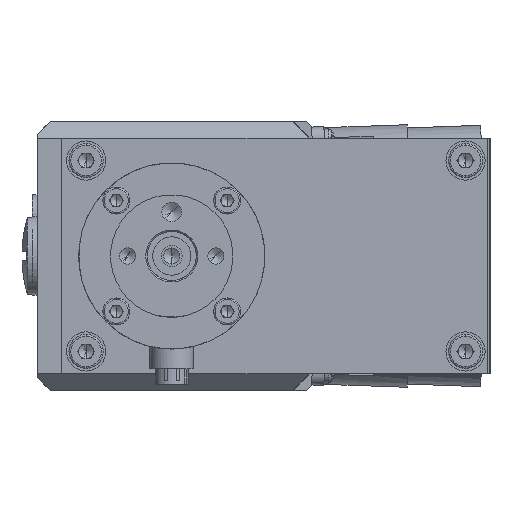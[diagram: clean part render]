
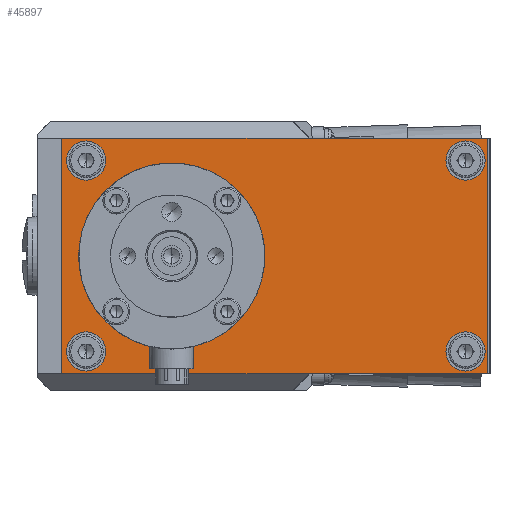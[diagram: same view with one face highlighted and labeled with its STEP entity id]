
A CAD part, left-side view. The second image highlights one B-rep face of the part: STEP entity #45897.
In plain terms, the highlighted planar face has unit normal (-1, 0, 0).
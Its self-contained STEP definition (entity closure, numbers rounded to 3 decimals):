
#493 = VECTOR ( 'NONE', #18934, 1000. ) ;
#1253 = EDGE_CURVE ( 'NONE', #39465, #55314, #44950, .T. ) ;
#1283 = FACE_BOUND ( 'NONE', #30103, .T. ) ;
#1407 = CARTESIAN_POINT ( 'NONE',  ( -106.001, -23.121, 45.182 ) ) ;
#1757 = ORIENTED_EDGE ( 'NONE', *, *, #45793, .T. ) ;
#2136 = ORIENTED_EDGE ( 'NONE', *, *, #33513, .T. ) ;
#2259 = EDGE_CURVE ( 'NONE', #18424, #23986, #35405, .T. ) ;
#2288 = VECTOR ( 'NONE', #11528, 1000. ) ;
#2969 = EDGE_CURVE ( 'NONE', #64629, #49535, #27499, .T. ) ;
#3425 = VERTEX_POINT ( 'NONE', #38431 ) ;
#3623 = CARTESIAN_POINT ( 'NONE',  ( -106.001, 36.879, 6.182 ) ) ;
#3814 = EDGE_CURVE ( 'NONE', #55314, #39465, #29535, .T. ) ;
#3964 = EDGE_LOOP ( 'NONE', ( #21582, #59154 ) ) ;
#4495 = VERTEX_POINT ( 'NONE', #55988 ) ;
#4737 = EDGE_LOOP ( 'NONE', ( #29572, #19169 ) ) ;
#5044 = DIRECTION ( 'NONE',  ( 0., 0., 1. ) ) ;
#5233 = FACE_BOUND ( 'NONE', #9624, .T. ) ;
#5773 = AXIS2_PLACEMENT_3D ( 'NONE', #47185, #22034, #63292 ) ;
#7253 = CARTESIAN_POINT ( 'NONE',  ( -106.001, -23.121, 37.182 ) ) ;
#8612 = EDGE_LOOP ( 'NONE', ( #2136, #1757, #29216, #39668 ) ) ;
#8789 = EDGE_CURVE ( 'NONE', #62896, #44707, #21869, .T. ) ;
#9624 = EDGE_LOOP ( 'NONE', ( #14439, #29323 ) ) ;
#9677 = CARTESIAN_POINT ( 'NONE',  ( -106.001, -27.621, -2.318 ) ) ;
#9692 = EDGE_LOOP ( 'NONE', ( #54868, #40660 ) ) ;
#10726 = DIRECTION ( 'NONE',  ( 0., 0., -1. ) ) ;
#10733 = FACE_OUTER_BOUND ( 'NONE', #8612, .T. ) ;
#10803 = CARTESIAN_POINT ( 'NONE',  ( -106.001, -23.121, 41.182 ) ) ;
#10888 = CARTESIAN_POINT ( 'NONE',  ( -106.001, 54.379, 2.182 ) ) ;
#11528 = DIRECTION ( 'NONE',  ( 0., 0., 1. ) ) ;
#11698 = AXIS2_PLACEMENT_3D ( 'NONE', #15801, #51156, #61562 ) ;
#11763 = DIRECTION ( 'NONE',  ( 0., 0., 1. ) ) ;
#14313 = DIRECTION ( 'NONE',  ( -1., 0., 0. ) ) ;
#14439 = ORIENTED_EDGE ( 'NONE', *, *, #18035, .F. ) ;
#14987 = CARTESIAN_POINT ( 'NONE',  ( -106.001, 54.379, -1.818 ) ) ;
#15801 = CARTESIAN_POINT ( 'NONE',  ( -106.001, -23.121, 2.182 ) ) ;
#17177 = CARTESIAN_POINT ( 'NONE',  ( -106.001, -27.621, -2.318 ) ) ;
#17781 = LINE ( 'NONE', #54031, #493 ) ;
#18035 = EDGE_CURVE ( 'NONE', #44707, #62896, #38807, .T. ) ;
#18226 = AXIS2_PLACEMENT_3D ( 'NONE', #10803, #36349, #31022 ) ;
#18424 = VERTEX_POINT ( 'NONE', #27977 ) ;
#18588 = FACE_BOUND ( 'NONE', #9692, .T. ) ;
#18743 = CARTESIAN_POINT ( 'NONE',  ( -106.001, -23.121, -1.818 ) ) ;
#18934 = DIRECTION ( 'NONE',  ( 0., 1., 0. ) ) ;
#18952 = LINE ( 'NONE', #36105, #35540 ) ;
#19169 = ORIENTED_EDGE ( 'NONE', *, *, #2969, .F. ) ;
#21582 = ORIENTED_EDGE ( 'NONE', *, *, #2259, .F. ) ;
#21869 = CIRCLE ( 'NONE', #46057, 4. ) ;
#22034 = DIRECTION ( 'NONE',  ( -1., 0., 0. ) ) ;
#22388 = EDGE_CURVE ( 'NONE', #49535, #64629, #39155, .T. ) ;
#23514 = LINE ( 'NONE', #9677, #59106 ) ;
#23986 = VERTEX_POINT ( 'NONE', #14987 ) ;
#24507 = VERTEX_POINT ( 'NONE', #52565 ) ;
#24578 = EDGE_CURVE ( 'NONE', #4495, #61840, #48435, .T. ) ;
#25323 = VERTEX_POINT ( 'NONE', #17177 ) ;
#27499 = CIRCLE ( 'NONE', #56085, 4. ) ;
#27913 = AXIS2_PLACEMENT_3D ( 'NONE', #47262, #47468, #11763 ) ;
#27977 = CARTESIAN_POINT ( 'NONE',  ( -106.001, 54.379, 6.182 ) ) ;
#28228 = LINE ( 'NONE', #52320, #2288 ) ;
#29216 = ORIENTED_EDGE ( 'NONE', *, *, #62642, .T. ) ;
#29304 = DIRECTION ( 'NONE',  ( 0., 0., 1. ) ) ;
#29323 = ORIENTED_EDGE ( 'NONE', *, *, #8789, .F. ) ;
#29498 = ORIENTED_EDGE ( 'NONE', *, *, #36718, .F. ) ;
#29535 = CIRCLE ( 'NONE', #60015, 4. ) ;
#29572 = ORIENTED_EDGE ( 'NONE', *, *, #22388, .F. ) ;
#30103 = EDGE_LOOP ( 'NONE', ( #54390, #29498 ) ) ;
#30112 = CARTESIAN_POINT ( 'NONE',  ( -106.001, -23.121, 2.182 ) ) ;
#31022 = DIRECTION ( 'NONE',  ( 0., 0., 1. ) ) ;
#31141 = VERTEX_POINT ( 'NONE', #59854 ) ;
#31340 = DIRECTION ( 'NONE',  ( 0., 0., 1. ) ) ;
#31477 = EDGE_CURVE ( 'NONE', #24507, #25323, #23514, .T. ) ;
#33513 = EDGE_CURVE ( 'NONE', #25323, #3425, #28228, .T. ) ;
#35405 = CIRCLE ( 'NONE', #5773, 4. ) ;
#35540 = VECTOR ( 'NONE', #50901, 1000. ) ;
#36056 = DIRECTION ( 'NONE',  ( 1., 0., 0. ) ) ;
#36105 = CARTESIAN_POINT ( 'NONE',  ( -106.001, 59.379, -2.318 ) ) ;
#36349 = DIRECTION ( 'NONE',  ( -1., 0., 0. ) ) ;
#36718 = EDGE_CURVE ( 'NONE', #61840, #4495, #37292, .T. ) ;
#37292 = CIRCLE ( 'NONE', #49686, 15.5 ) ;
#38036 = CARTESIAN_POINT ( 'NONE',  ( -106.001, -23.121, 6.182 ) ) ;
#38355 = CIRCLE ( 'NONE', #56051, 4. ) ;
#38431 = CARTESIAN_POINT ( 'NONE',  ( -106.001, -27.621, 45.682 ) ) ;
#38807 = CIRCLE ( 'NONE', #18226, 4. ) ;
#39155 = CIRCLE ( 'NONE', #11698, 4. ) ;
#39420 = DIRECTION ( 'NONE',  ( 0., -1., 0. ) ) ;
#39465 = VERTEX_POINT ( 'NONE', #64002 ) ;
#39605 = AXIS2_PLACEMENT_3D ( 'NONE', #40892, #36056, #10726 ) ;
#39668 = ORIENTED_EDGE ( 'NONE', *, *, #31477, .T. ) ;
#40660 = ORIENTED_EDGE ( 'NONE', *, *, #1253, .F. ) ;
#40892 = CARTESIAN_POINT ( 'NONE',  ( -106.001, -27.621, -2.318 ) ) ;
#41108 = PLANE ( 'NONE',  #39605 ) ;
#42295 = FACE_BOUND ( 'NONE', #4737, .T. ) ;
#43438 = CARTESIAN_POINT ( 'NONE',  ( -106.001, 54.379, 41.182 ) ) ;
#43620 = CARTESIAN_POINT ( 'NONE',  ( -106.001, 36.879, 21.682 ) ) ;
#44707 = VERTEX_POINT ( 'NONE', #1407 ) ;
#44950 = CIRCLE ( 'NONE', #64894, 4. ) ;
#45485 = EDGE_CURVE ( 'NONE', #23986, #18424, #38355, .T. ) ;
#45793 = EDGE_CURVE ( 'NONE', #3425, #31141, #17781, .T. ) ;
#45897 = ADVANCED_FACE ( 'NONE', ( #56517, #42295, #18588, #5233, #1283, #10733 ), #41108, .F. ) ;
#46057 = AXIS2_PLACEMENT_3D ( 'NONE', #54916, #14313, #29304 ) ;
#47185 = CARTESIAN_POINT ( 'NONE',  ( -106.001, 54.379, 2.182 ) ) ;
#47262 = CARTESIAN_POINT ( 'NONE',  ( -106.001, 36.879, 21.682 ) ) ;
#47468 = DIRECTION ( 'NONE',  ( -1., 0., 0. ) ) ;
#48435 = CIRCLE ( 'NONE', #27913, 15.5 ) ;
#49127 = DIRECTION ( 'NONE',  ( 0., 0., 1. ) ) ;
#49535 = VERTEX_POINT ( 'NONE', #38036 ) ;
#49686 = AXIS2_PLACEMENT_3D ( 'NONE', #43620, #53765, #49127 ) ;
#50297 = CARTESIAN_POINT ( 'NONE',  ( -106.001, 54.379, 41.182 ) ) ;
#50901 = DIRECTION ( 'NONE',  ( 0., 0., -1. ) ) ;
#51156 = DIRECTION ( 'NONE',  ( -1., 0., 0. ) ) ;
#52320 = CARTESIAN_POINT ( 'NONE',  ( -106.001, -27.621, 45.682 ) ) ;
#52565 = CARTESIAN_POINT ( 'NONE',  ( -106.001, 59.379, -2.318 ) ) ;
#53156 = DIRECTION ( 'NONE',  ( -1., 0., 0. ) ) ;
#53765 = DIRECTION ( 'NONE',  ( -1., 0., 0. ) ) ;
#54031 = CARTESIAN_POINT ( 'NONE',  ( -106.001, 59.379, 45.682 ) ) ;
#54390 = ORIENTED_EDGE ( 'NONE', *, *, #24578, .F. ) ;
#54868 = ORIENTED_EDGE ( 'NONE', *, *, #3814, .F. ) ;
#54916 = CARTESIAN_POINT ( 'NONE',  ( -106.001, -23.121, 41.182 ) ) ;
#55314 = VERTEX_POINT ( 'NONE', #59769 ) ;
#55369 = DIRECTION ( 'NONE',  ( 0., 0., 1. ) ) ;
#55988 = CARTESIAN_POINT ( 'NONE',  ( -106.001, 36.879, 37.182 ) ) ;
#56051 = AXIS2_PLACEMENT_3D ( 'NONE', #10888, #61641, #31340 ) ;
#56085 = AXIS2_PLACEMENT_3D ( 'NONE', #30112, #65049, #5044 ) ;
#56517 = FACE_BOUND ( 'NONE', #3964, .T. ) ;
#59106 = VECTOR ( 'NONE', #39420, 1000. ) ;
#59154 = ORIENTED_EDGE ( 'NONE', *, *, #45485, .F. ) ;
#59769 = CARTESIAN_POINT ( 'NONE',  ( -106.001, 54.379, 45.182 ) ) ;
#59854 = CARTESIAN_POINT ( 'NONE',  ( -106.001, 59.379, 45.682 ) ) ;
#60015 = AXIS2_PLACEMENT_3D ( 'NONE', #43438, #53156, #63555 ) ;
#61562 = DIRECTION ( 'NONE',  ( 0., 0., 1. ) ) ;
#61641 = DIRECTION ( 'NONE',  ( -1., 0., 0. ) ) ;
#61840 = VERTEX_POINT ( 'NONE', #3623 ) ;
#62642 = EDGE_CURVE ( 'NONE', #31141, #24507, #18952, .T. ) ;
#62896 = VERTEX_POINT ( 'NONE', #7253 ) ;
#63292 = DIRECTION ( 'NONE',  ( 0., 0., 1. ) ) ;
#63555 = DIRECTION ( 'NONE',  ( 0., 0., 1. ) ) ;
#64002 = CARTESIAN_POINT ( 'NONE',  ( -106.001, 54.379, 37.182 ) ) ;
#64629 = VERTEX_POINT ( 'NONE', #18743 ) ;
#64894 = AXIS2_PLACEMENT_3D ( 'NONE', #50297, #65341, #55369 ) ;
#65049 = DIRECTION ( 'NONE',  ( -1., 0., 0. ) ) ;
#65341 = DIRECTION ( 'NONE',  ( -1., 0., 0. ) ) ;
